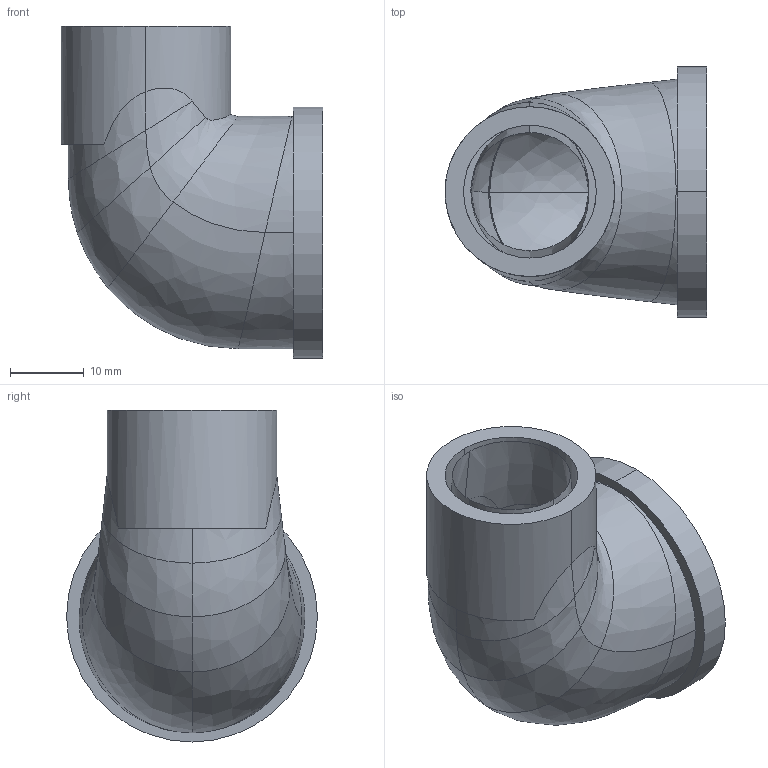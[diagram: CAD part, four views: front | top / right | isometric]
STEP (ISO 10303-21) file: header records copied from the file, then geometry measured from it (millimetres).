
FILE_DESCRIPTION (( 'STEP AP203' ), '1' );
FILE_NAME ('4090g-22x1-2.STEP', '2024-02-21T02:42:25', ( '' ), ( '' ), 'SwSTEP 2.0', 'SolidWorks 2018', '' );
FILE_SCHEMA (( 'CONFIG_CONTROL_DESIGN' ));
Length unit declared in the file: millimetre
Products named in the file (1): 4090g-22x1-2
Bounding box: 35.5 x 34 x 45 mm (x, y, z)
Surface area: 11794.6 mm2 (no closed solid volume)
Topology: 0 solids, 2 shells, 86 faces, 211 edges, 128 vertices
Faces by surface type: bspline 53, cylinder 22, plane 9, cone 2
Entity records: 8699 total; most frequent: CARTESIAN_POINT 7084, ORIENTED_EDGE 416, EDGE_CURVE 211, B_SPLINE_CURVE_WITH_KNOTS 155, DIRECTION 139, VERTEX_POINT 128, EDGE_LOOP 89, ADVANCED_FACE 86
